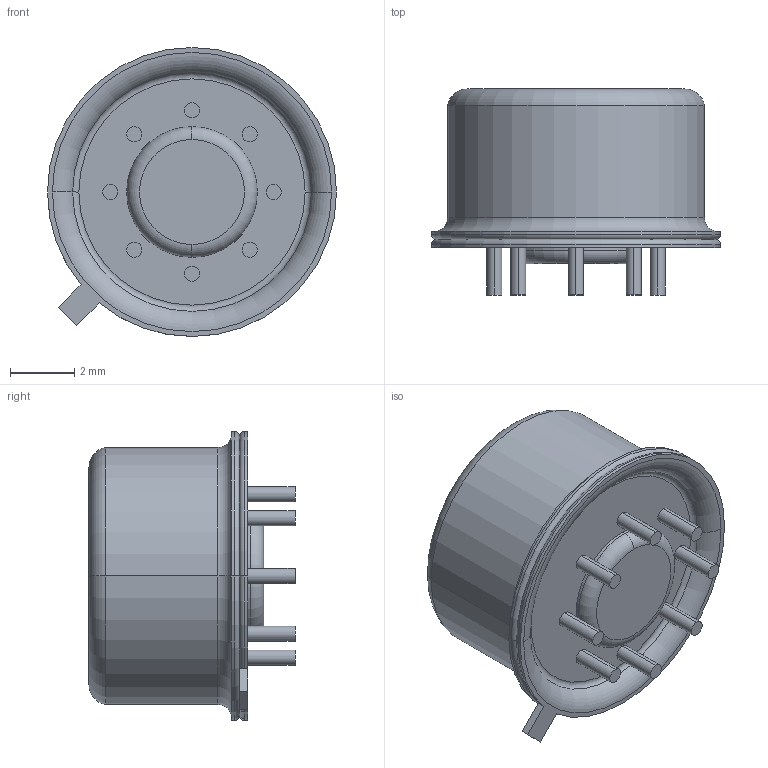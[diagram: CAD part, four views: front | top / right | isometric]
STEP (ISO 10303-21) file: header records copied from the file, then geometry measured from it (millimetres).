
FILE_DESCRIPTION (( 'STEP AP214' ), '1' );
FILE_NAME ('TO99.STEP', '2012-01-23T15:55:27', ( 'ASUS' ), ( 'asus' ), 'SwSTEP 2.0', 'SolidWorks 2010', '' );
FILE_SCHEMA (( 'AUTOMOTIVE_DESIGN' ));
Length unit declared in the file: millimetre
Products named in the file (1): TO99
Bounding box: 9 x 6.42 x 9 mm (x, y, z)
Volume: 238.7 mm3; surface area: 304.2 mm2
Topology: 10 solids, 10 shells, 90 faces, 276 edges, 232 vertices
Faces by surface type: plane 51, cylinder 25, torus 14
Entity records: 5570 total; most frequent: CARTESIAN_POINT 2062, ORIENTED_EDGE 552, DIRECTION 446, EDGE_CURVE 276, VERTEX_POINT 232, AXIS2_PLACEMENT_3D 167, EDGE_LOOP 116, VECTOR 112
